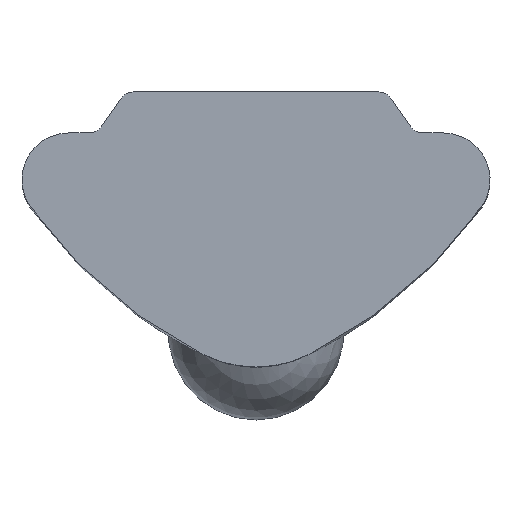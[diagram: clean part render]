
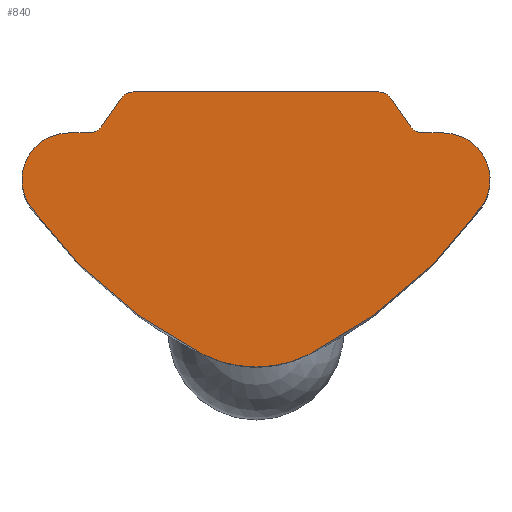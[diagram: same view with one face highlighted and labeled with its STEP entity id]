
A CAD part, top view. The second image highlights one B-rep face of the part: STEP entity #840.
In plain terms, the highlighted planar face has unit normal (0, 0, 1).
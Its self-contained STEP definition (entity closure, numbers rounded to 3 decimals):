
#224=CARTESIAN_POINT('',(3.852,2.736,12.));
#225=VERTEX_POINT('',#224);
#232=CARTESIAN_POINT('',(0.889,0.208,12.));
#233=VERTEX_POINT('',#232);
#234=CARTESIAN_POINT('',(-2.666,7.375,12.));
#235=DIRECTION('',(0.0,0.0,-1.));
#236=DIRECTION('',(0.444,-0.896,0.0));
#237=AXIS2_PLACEMENT_3D('',#234,#235,#236);
#238=CIRCLE('',#237,8.0);
#239=EDGE_CURVE('',#225,#233,#238,.T.);
#369=CARTESIAN_POINT('',(-0.889,0.208,12.));
#370=VERTEX_POINT('',#369);
#377=CARTESIAN_POINT('',(-3.852,2.736,12.));
#378=VERTEX_POINT('',#377);
#379=CARTESIAN_POINT('',(2.666,7.375,12.));
#380=DIRECTION('',(0.0,0.0,-1.));
#381=DIRECTION('',(-0.815,-0.58,0.0));
#382=AXIS2_PLACEMENT_3D('',#379,#380,#381);
#383=CIRCLE('',#382,8.0);
#384=EDGE_CURVE('',#370,#378,#383,.T.);
#421=CARTESIAN_POINT('',(0.0,2.,12.));
#422=DIRECTION('',(0.0,0.0,-1.));
#423=DIRECTION('',(-0.444,-0.896,0.0));
#424=AXIS2_PLACEMENT_3D('',#421,#422,#423);
#425=CIRCLE('',#424,2.);
#426=EDGE_CURVE('',#233,#370,#425,.T.);
#437=CARTESIAN_POINT('',(2.1,4.7,12.));
#438=VERTEX_POINT('',#437);
#439=CARTESIAN_POINT('',(2.305,4.593,12.));
#440=VERTEX_POINT('',#439);
#441=CARTESIAN_POINT('',(2.1,4.45,12.));
#442=DIRECTION('',(0.0,0.0,-1.));
#443=DIRECTION('',(0.819,0.573,0.0));
#444=AXIS2_PLACEMENT_3D('',#441,#442,#443);
#445=CIRCLE('',#444,0.25);
#446=EDGE_CURVE('',#438,#440,#445,.T.);
#479=CARTESIAN_POINT('',(2.645,4.107,12.));
#480=VERTEX_POINT('',#479);
#481=CARTESIAN_POINT('',(2.305,4.593,12.));
#482=DIRECTION('',(0.573,-0.819,0.0));
#483=VECTOR('',#482,0.594);
#484=LINE('',#481,#483);
#485=EDGE_CURVE('',#440,#480,#484,.T.);
#510=CARTESIAN_POINT('',(2.85,4.,12.));
#511=VERTEX_POINT('',#510);
#512=CARTESIAN_POINT('',(2.85,4.25,12.));
#513=DIRECTION('',(0.0,0.0,1.0));
#514=DIRECTION('',(0.819,0.573,0.0));
#515=AXIS2_PLACEMENT_3D('',#512,#513,#514);
#516=CIRCLE('',#515,0.25);
#517=EDGE_CURVE('',#480,#511,#516,.T.);
#543=CARTESIAN_POINT('',(3.2,4.,12.));
#544=VERTEX_POINT('',#543);
#545=CARTESIAN_POINT('',(2.85,4.,12.));
#546=DIRECTION('',(1.0,0.0,0.0));
#547=VECTOR('',#546,0.35);
#548=LINE('',#545,#547);
#549=EDGE_CURVE('',#511,#544,#548,.T.);
#574=CARTESIAN_POINT('',(3.2,3.2,12.));
#575=DIRECTION('',(0.0,0.0,-1.));
#576=DIRECTION('',(0.815,-0.58,0.0));
#577=AXIS2_PLACEMENT_3D('',#574,#575,#576);
#578=CIRCLE('',#577,0.8);
#579=EDGE_CURVE('',#544,#225,#578,.T.);
#616=CARTESIAN_POINT('',(-3.2,4.,12.));
#617=VERTEX_POINT('',#616);
#618=CARTESIAN_POINT('',(-3.2,3.2,12.));
#619=DIRECTION('',(0.0,0.0,-1.0));
#620=DIRECTION('',(0.,1.0,0.0));
#621=AXIS2_PLACEMENT_3D('',#618,#619,#620);
#622=CIRCLE('',#621,0.8);
#623=EDGE_CURVE('',#378,#617,#622,.T.);
#649=CARTESIAN_POINT('',(-2.85,4.,12.));
#650=VERTEX_POINT('',#649);
#651=CARTESIAN_POINT('',(-3.2,4.,12.));
#652=DIRECTION('',(1.0,0.0,0.0));
#653=VECTOR('',#652,0.35);
#654=LINE('',#651,#653);
#655=EDGE_CURVE('',#617,#650,#654,.T.);
#680=CARTESIAN_POINT('',(-2.645,4.107,12.));
#681=VERTEX_POINT('',#680);
#682=CARTESIAN_POINT('',(-2.85,4.25,12.));
#683=DIRECTION('',(0.0,0.0,1.0));
#684=DIRECTION('',(0.,1.0,0.0));
#685=AXIS2_PLACEMENT_3D('',#682,#683,#684);
#686=CIRCLE('',#685,0.25);
#687=EDGE_CURVE('',#650,#681,#686,.T.);
#713=CARTESIAN_POINT('',(-2.305,4.593,12.));
#714=VERTEX_POINT('',#713);
#715=CARTESIAN_POINT('',(-2.645,4.107,12.));
#716=DIRECTION('',(0.573,0.819,0.0));
#717=VECTOR('',#716,0.594);
#718=LINE('',#715,#717);
#719=EDGE_CURVE('',#681,#714,#718,.T.);
#744=CARTESIAN_POINT('',(-2.1,4.7,12.));
#745=VERTEX_POINT('',#744);
#746=CARTESIAN_POINT('',(-2.1,4.45,12.));
#747=DIRECTION('',(0.0,0.0,-1.0));
#748=DIRECTION('',(0.,1.0,0.0));
#749=AXIS2_PLACEMENT_3D('',#746,#747,#748);
#750=CIRCLE('',#749,0.25);
#751=EDGE_CURVE('',#714,#745,#750,.T.);
#777=CARTESIAN_POINT('',(-2.1,4.7,12.));
#778=DIRECTION('',(1.0,0.0,0.0));
#779=VECTOR('',#778,4.2);
#780=LINE('',#777,#779);
#781=EDGE_CURVE('',#745,#438,#780,.T.);
#819=CARTESIAN_POINT('',(0.,2.712,12.));
#820=DIRECTION('',(0.0,0.0,1.0));
#821=DIRECTION('',(1.0,0.0,0.0));
#822=AXIS2_PLACEMENT_3D('',#819,#820,#821);
#823=PLANE('',#822);
#824=ORIENTED_EDGE('',*,*,#446,.F.);
#825=ORIENTED_EDGE('',*,*,#781,.F.);
#826=ORIENTED_EDGE('',*,*,#751,.F.);
#827=ORIENTED_EDGE('',*,*,#719,.F.);
#828=ORIENTED_EDGE('',*,*,#687,.F.);
#829=ORIENTED_EDGE('',*,*,#655,.F.);
#830=ORIENTED_EDGE('',*,*,#623,.F.);
#831=ORIENTED_EDGE('',*,*,#384,.F.);
#832=ORIENTED_EDGE('',*,*,#426,.F.);
#833=ORIENTED_EDGE('',*,*,#239,.F.);
#834=ORIENTED_EDGE('',*,*,#579,.F.);
#835=ORIENTED_EDGE('',*,*,#549,.F.);
#836=ORIENTED_EDGE('',*,*,#517,.F.);
#837=ORIENTED_EDGE('',*,*,#485,.F.);
#838=EDGE_LOOP('',(#824,#825,#826,#827,#828,#829,#830,#831,#832,#833,#834,#835,#836,#837));
#839=FACE_OUTER_BOUND('',#838,.T.);
#840=ADVANCED_FACE('',(#839),#823,.T.);
